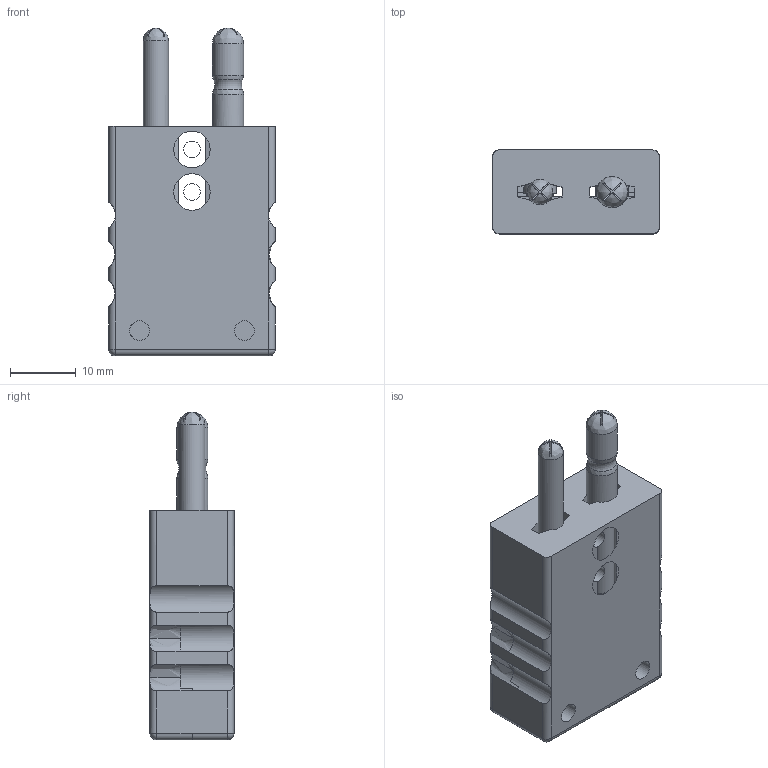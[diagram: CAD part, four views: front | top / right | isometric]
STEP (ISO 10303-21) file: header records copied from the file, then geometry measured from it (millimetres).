
FILE_DESCRIPTION(/* description */ (''),/* implementation_level */ '2;1');
FILE_NAME(/* name */ 'CON-MP-STD-K ASSEMBLY_SW.stp',/* time_stamp */ '2023-06-09T13:41:21-04:00',/* author */ ('Justin'),/* organization */ (''),/* preprocessor_version */ 'ST-DEVELOPER v19.2',/* originating_system */ 'Autodesk Inventor 2024',/* authorisation */ '');
FILE_SCHEMA (('AUTOMOTIVE_DESIGN { 1 0 10303 214 3 1 1 }'));
Length unit declared in the file: inch
Products named in the file (1): CON-MP-STD-K ASSEMBLY_SW
Bounding box: 25.41 x 12.83 x 50 mm (x, y, z)
Volume: 9331.7 mm3; surface area: 6469.5 mm2
Topology: 1 solids, 2 shells, 313 faces, 884 edges, 561 vertices
Faces by surface type: plane 145, cylinder 81, bspline 45, sphere 20, torus 18, cone 4
Full cylindrical faces by diameter (mm): 0 x1, 2.55 x2, 2.6 x1, 3 x2, 3.342 x1, 3.734 x1, 3.85 x3, 4.65 x1, 4.75 x2, 5 x2, 7 x3
Entity records: 12825 total; most frequent: CARTESIAN_POINT 4514, ORIENTED_EDGE 1750, DIRECTION 1563, EDGE_CURVE 876, VERTEX_POINT 561, AXIS2_PLACEMENT_3D 554, LINE 455, VECTOR 455
